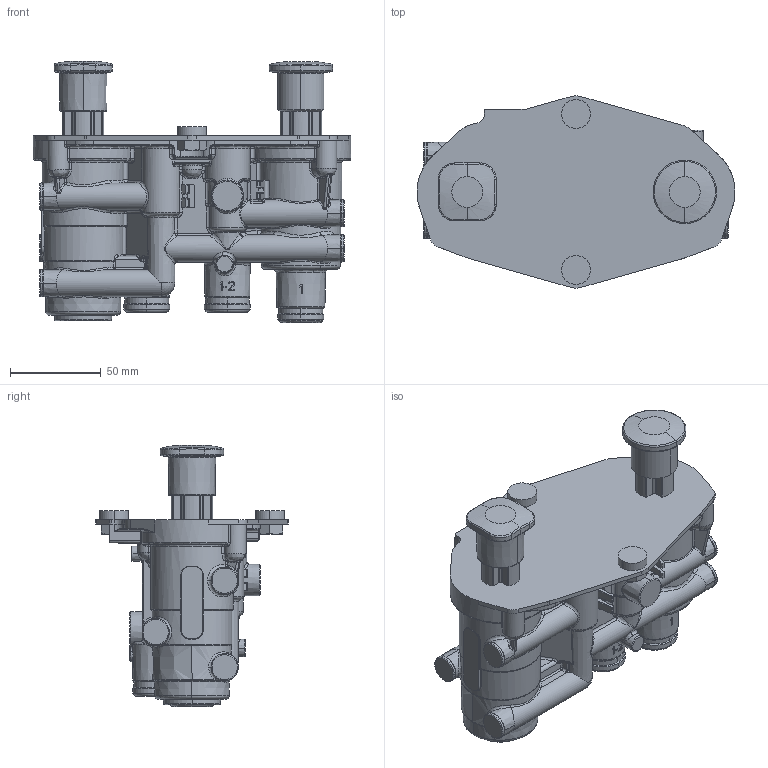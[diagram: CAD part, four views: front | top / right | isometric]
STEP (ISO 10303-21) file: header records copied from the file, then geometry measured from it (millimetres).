
FILE_DESCRIPTION((''),'2;1');
FILE_NAME('352_076_001_ASM_SW0001','2022-05-20T10:26:36',('sripaskaraa'),('Haldex Brake Products'),'CREO PARAMETRIC BY PTC INC, 2018500','CREO PARAMETRIC BY PTC INC, 2018500','');
FILE_SCHEMA(('AUTOMOTIVE_DESIGN { 1 0 10303 214 1 1 1 1 }'));
Length unit declared in the file: inch
Products named in the file (1): 352_076_001_ASM_SW0001
Bounding box: 175.35 x 106 x 143.95 mm (x, y, z)
Volume: 571438.6 mm3; surface area: 107129.7 mm2
Topology: 1 solids, 1 shells, 2881 faces, 7195 edges, 4229 vertices
Faces by surface type: plane 941, bspline 737, cylinder 653, torus 236, sphere 184, cone 124, extrusion 6
Entity records: 166280 total; most frequent: CARTESIAN_POINT 77174, ORIENTED_EDGE 14108, DIRECTION 10386, EDGE_CURVE 7054, FILL_AREA_STYLE_COLOUR 4513, FILL_AREA_STYLE 4513, SURFACE_STYLE_FILL_AREA 4513, SURFACE_SIDE_STYLE 4513
